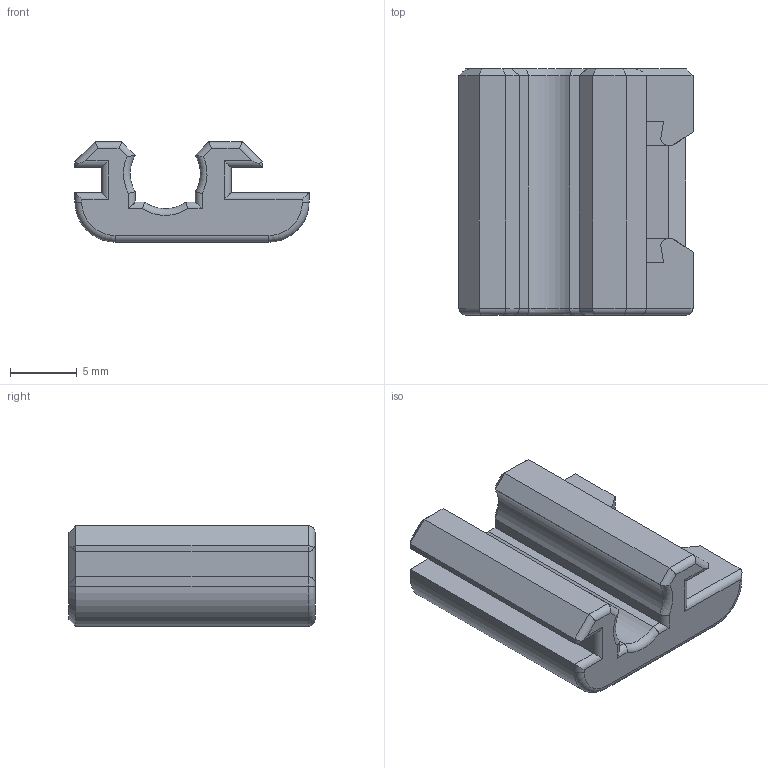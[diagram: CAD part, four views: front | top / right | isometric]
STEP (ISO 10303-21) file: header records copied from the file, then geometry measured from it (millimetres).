
FILE_DESCRIPTION(/* description */ (''),/* implementation_level */ '2;1');
FILE_NAME(/* name */ 'F:/Phasespacce 2019/VR Rift/Face Shield Poly/Production/Face Shiel Parts final/Belt Clip 4 Poly v8.step',/* time_stamp */ '2020-04-01T10:12:26-07:00',/* author */ (''),/* organization */ (''),/* preprocessor_version */ 'ST-DEVELOPER v18',/* originating_system */ 'Autodesk Translation Framework v8.12.0.6',/* authorisation */ '');
FILE_SCHEMA (('AUTOMOTIVE_DESIGN { 1 0 10303 214 3 1 1 }'));
Length unit declared in the file: millimetre
Products named in the file (1): Good Belt Clip 4 Poly
Bounding box: 17.5 x 18.4 x 7.5 mm (x, y, z)
Volume: 1316.1 mm3; surface area: 1332.9 mm2
Topology: 1 solids, 1 shells, 103 faces, 251 edges, 150 vertices
Faces by surface type: plane 63, cylinder 30, cone 5, torus 5
Entity records: 3040 total; most frequent: CARTESIAN_POINT 609, ORIENTED_EDGE 502, DIRECTION 493, EDGE_CURVE 251, LINE 185, VECTOR 185, AXIS2_PLACEMENT_3D 154, VERTEX_POINT 150
